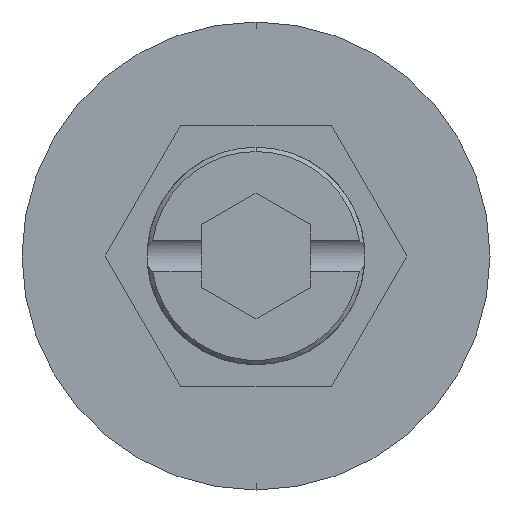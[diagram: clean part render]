
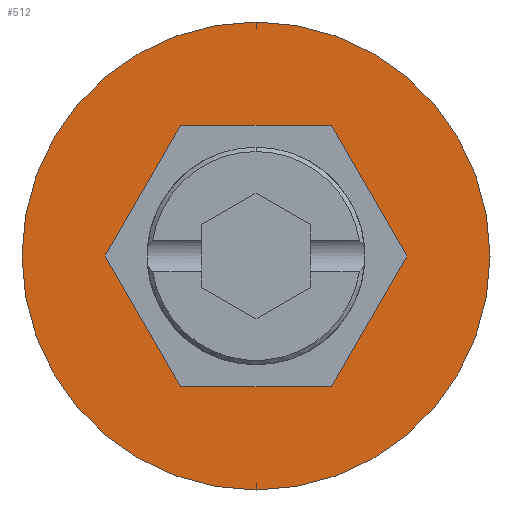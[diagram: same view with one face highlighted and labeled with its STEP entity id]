
A CAD part, front view. The second image highlights one B-rep face of the part: STEP entity #512.
In plain terms, the highlighted planar face has unit normal (0, -1, 0).
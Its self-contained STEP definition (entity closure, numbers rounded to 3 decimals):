
#8 = CARTESIAN_POINT ( 'NONE',  ( -3.464, 0., -6. ) ) ;
#10 = EDGE_CURVE ( 'NONE', #816, #895, #1139, .T. ) ;
#74 = DIRECTION ( 'NONE',  ( 0., -1., 0. ) ) ;
#85 = CARTESIAN_POINT ( 'NONE',  ( 0., 0., 0. ) ) ;
#91 = EDGE_CURVE ( 'NONE', #243, #152, #1080, .T. ) ;
#122 = DIRECTION ( 'NONE',  ( -0.5, 0., -0.866 ) ) ;
#126 = ORIENTED_EDGE ( 'NONE', *, *, #2097, .F. ) ;
#152 = VERTEX_POINT ( 'NONE', #2059 ) ;
#162 = CARTESIAN_POINT ( 'NONE',  ( -3.464, 0., 6. ) ) ;
#189 = ORIENTED_EDGE ( 'NONE', *, *, #91, .F. ) ;
#216 = CARTESIAN_POINT ( 'NONE',  ( 0., 0., 0. ) ) ;
#243 = VERTEX_POINT ( 'NONE', #1696 ) ;
#317 = CIRCLE ( 'NONE', #1074, 10.75 ) ;
#350 = VECTOR ( 'NONE', #122, 1000. ) ;
#367 = LINE ( 'NONE', #162, #350 ) ;
#397 = DIRECTION ( 'NONE',  ( 0., 0., -1. ) ) ;
#402 = CARTESIAN_POINT ( 'NONE',  ( -3.464, 0., 6. ) ) ;
#409 = CARTESIAN_POINT ( 'NONE',  ( 6.928, 0., 0. ) ) ;
#410 = VERTEX_POINT ( 'NONE', #1250 ) ;
#512 = ADVANCED_FACE ( 'NONE', ( #620, #646 ), #1363, .T. ) ;
#573 = DIRECTION ( 'NONE',  ( 0., -1., 0. ) ) ;
#620 = FACE_BOUND ( 'NONE', #1567, .T. ) ;
#646 = FACE_OUTER_BOUND ( 'NONE', #1487, .T. ) ;
#719 = AXIS2_PLACEMENT_3D ( 'NONE', #216, #932, #1372 ) ;
#720 = EDGE_CURVE ( 'NONE', #895, #243, #367, .T. ) ;
#722 = ORIENTED_EDGE ( 'NONE', *, *, #762, .T. ) ;
#756 = CARTESIAN_POINT ( 'NONE',  ( -6.928, 0., 0. ) ) ;
#762 = EDGE_CURVE ( 'NONE', #410, #1289, #317, .T. ) ;
#777 = ORIENTED_EDGE ( 'NONE', *, *, #2123, .T. ) ;
#810 = CARTESIAN_POINT ( 'NONE',  ( 3.464, 0., -6. ) ) ;
#816 = VERTEX_POINT ( 'NONE', #848 ) ;
#848 = CARTESIAN_POINT ( 'NONE',  ( 3.464, 0., 6. ) ) ;
#895 = VERTEX_POINT ( 'NONE', #402 ) ;
#896 = CARTESIAN_POINT ( 'NONE',  ( 6.928, 0., 0. ) ) ;
#902 = DIRECTION ( 'NONE',  ( -0.5, 0., 0.866 ) ) ;
#932 = DIRECTION ( 'NONE',  ( 0., -1., 0. ) ) ;
#1021 = DIRECTION ( 'NONE',  ( 0.5, 0., -0.866 ) ) ;
#1074 = AXIS2_PLACEMENT_3D ( 'NONE', #1288, #573, #1565 ) ;
#1076 = VECTOR ( 'NONE', #1021, 1000. ) ;
#1080 = LINE ( 'NONE', #756, #1076 ) ;
#1138 = VECTOR ( 'NONE', #2208, 1000. ) ;
#1139 = LINE ( 'NONE', #2145, #1138 ) ;
#1250 = CARTESIAN_POINT ( 'NONE',  ( 0., 0., -10.75 ) ) ;
#1288 = CARTESIAN_POINT ( 'NONE',  ( 0., 0., 0. ) ) ;
#1289 = VERTEX_POINT ( 'NONE', #1388 ) ;
#1363 = PLANE ( 'NONE',  #719 ) ;
#1372 = DIRECTION ( 'NONE',  ( 0., 0., -1. ) ) ;
#1379 = DIRECTION ( 'NONE',  ( 1., 0., 0. ) ) ;
#1388 = CARTESIAN_POINT ( 'NONE',  ( 0., 0., 10.75 ) ) ;
#1428 = VERTEX_POINT ( 'NONE', #810 ) ;
#1487 = EDGE_LOOP ( 'NONE', ( #722, #777 ) ) ;
#1549 = EDGE_CURVE ( 'NONE', #1557, #816, #1994, .T. ) ;
#1557 = VERTEX_POINT ( 'NONE', #409 ) ;
#1565 = DIRECTION ( 'NONE',  ( 0., 0., -1. ) ) ;
#1567 = EDGE_LOOP ( 'NONE', ( #126, #189, #2083, #2180, #2239, #1785 ) ) ;
#1598 = DIRECTION ( 'NONE',  ( 0.5, 0., 0.866 ) ) ;
#1609 = AXIS2_PLACEMENT_3D ( 'NONE', #85, #74, #397 ) ;
#1696 = CARTESIAN_POINT ( 'NONE',  ( -6.928, 0., 0. ) ) ;
#1711 = CIRCLE ( 'NONE', #1609, 10.75 ) ;
#1741 = VECTOR ( 'NONE', #1379, 1000. ) ;
#1748 = LINE ( 'NONE', #8, #1741 ) ;
#1773 = EDGE_CURVE ( 'NONE', #1428, #1557, #1900, .T. ) ;
#1785 = ORIENTED_EDGE ( 'NONE', *, *, #1773, .F. ) ;
#1874 = VECTOR ( 'NONE', #1598, 1000. ) ;
#1900 = LINE ( 'NONE', #2177, #1874 ) ;
#1965 = VECTOR ( 'NONE', #902, 1000. ) ;
#1994 = LINE ( 'NONE', #896, #1965 ) ;
#2059 = CARTESIAN_POINT ( 'NONE',  ( -3.464, 0., -6. ) ) ;
#2083 = ORIENTED_EDGE ( 'NONE', *, *, #720, .F. ) ;
#2097 = EDGE_CURVE ( 'NONE', #152, #1428, #1748, .T. ) ;
#2123 = EDGE_CURVE ( 'NONE', #1289, #410, #1711, .T. ) ;
#2145 = CARTESIAN_POINT ( 'NONE',  ( 3.464, 0., 6. ) ) ;
#2177 = CARTESIAN_POINT ( 'NONE',  ( 3.464, 0., -6. ) ) ;
#2180 = ORIENTED_EDGE ( 'NONE', *, *, #10, .F. ) ;
#2208 = DIRECTION ( 'NONE',  ( -1., 0., 0. ) ) ;
#2239 = ORIENTED_EDGE ( 'NONE', *, *, #1549, .F. ) ;
